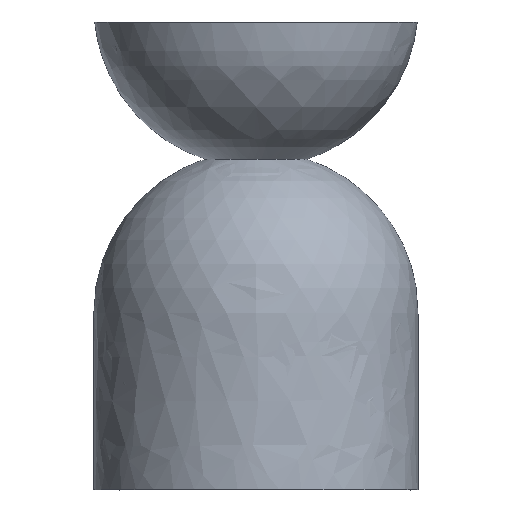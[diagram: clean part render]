
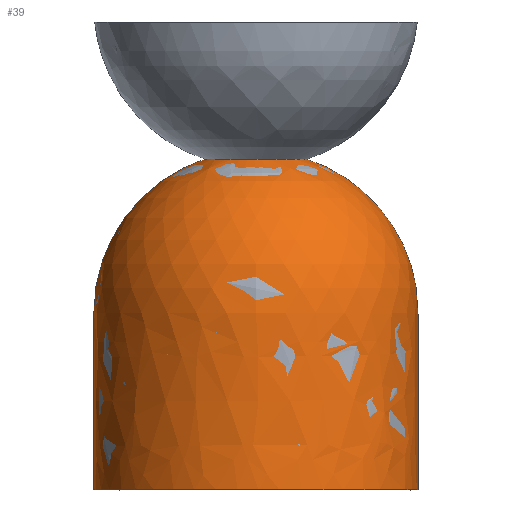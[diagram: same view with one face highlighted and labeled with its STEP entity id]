
A CAD part, front view. The second image highlights one B-rep face of the part: STEP entity #39.
In plain terms, the highlighted free-form (B-spline) face has degree [2, 2] with [5, 5] control points.
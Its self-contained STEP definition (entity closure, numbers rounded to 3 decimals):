
#39=ADVANCED_FACE('',(#65),#352,.T.);
#65=FACE_OUTER_BOUND('',#91,.T.);
#91=EDGE_LOOP('',(#189,#190,#191,#192));
#189=ORIENTED_EDGE('',*,*,#233,.F.);
#190=ORIENTED_EDGE('',*,*,#247,.F.);
#191=ORIENTED_EDGE('',*,*,#231,.F.);
#192=ORIENTED_EDGE('',*,*,#245,.F.);
#231=EDGE_CURVE('',#323,#325,#285,.T.);
#233=EDGE_CURVE('',#326,#324,#287,.T.);
#245=EDGE_CURVE('',#324,#323,#298,.T.);
#247=EDGE_CURVE('',#325,#326,#300,.T.);
#285=(
BOUNDED_CURVE()
B_SPLINE_CURVE(2,(#775,#776,#777,#778,#779),.UNSPECIFIED.,.F.,.F.)
B_SPLINE_CURVE_WITH_KNOTS((3,2,3),(1811.596,1842.989,1867.989),
 .UNSPECIFIED.)
CURVE()
GEOMETRIC_REPRESENTATION_ITEM()
RATIONAL_B_SPLINE_CURVE((1.,0.809,1.,1.,1.))
REPRESENTATION_ITEM('')
);
#287=(
BOUNDED_CURVE()
B_SPLINE_CURVE(2,(#785,#786,#787,#788,#789),.UNSPECIFIED.,.F.,.F.)
B_SPLINE_CURVE_WITH_KNOTS((3,2,3),(-1867.989,-1842.989,
-1811.596),.UNSPECIFIED.)
CURVE()
GEOMETRIC_REPRESENTATION_ITEM()
RATIONAL_B_SPLINE_CURVE((1.,1.,1.,0.809,1.))
REPRESENTATION_ITEM('')
);
#298=(
BOUNDED_CURVE()
B_SPLINE_CURVE(2,(#842,#843,#844,#845,#846),.UNSPECIFIED.,.F.,.F.)
B_SPLINE_CURVE_WITH_KNOTS((3,2,3),(785.398,1178.097,1570.796),
 .UNSPECIFIED.)
CURVE()
GEOMETRIC_REPRESENTATION_ITEM()
RATIONAL_B_SPLINE_CURVE((1.,0.707,1.,0.707,1.))
REPRESENTATION_ITEM('')
);
#300=(
BOUNDED_CURVE()
B_SPLINE_CURVE(2,(#852,#853,#854,#855,#856),.UNSPECIFIED.,.F.,.F.)
B_SPLINE_CURVE_WITH_KNOTS((3,2,3),(-1570.796,-1178.097,
-785.398),.UNSPECIFIED.)
CURVE()
GEOMETRIC_REPRESENTATION_ITEM()
RATIONAL_B_SPLINE_CURVE((1.,0.707,1.,0.707,1.))
REPRESENTATION_ITEM('')
);
#323=VERTEX_POINT('',#657);
#324=VERTEX_POINT('',#658);
#325=VERTEX_POINT('',#659);
#326=VERTEX_POINT('',#660);
#352=(
BOUNDED_SURFACE()
B_SPLINE_SURFACE(2,2,((#609,#610,#611,#612,#613),(#614,#615,#616,#617,#618),
(#619,#620,#621,#622,#623),(#624,#625,#626,#627,#628),(#629,#630,#631,#632,
#633)),.UNSPECIFIED.,.F.,.F.,.F.)
B_SPLINE_SURFACE_WITH_KNOTS((3,2,3),(3,2,3),(1811.596,1842.989,
1867.989),(785.398,1178.097,1570.796),
 .UNSPECIFIED.)
GEOMETRIC_REPRESENTATION_ITEM()
RATIONAL_B_SPLINE_SURFACE(((1.,0.707,1.,0.707,1.),
(0.809,0.572,0.809,0.572,
0.809),(1.,0.707,1.,0.707,1.),(1.,0.707,
1.,0.707,1.),(1.,0.707,1.,0.707,1.)))
REPRESENTATION_ITEM('')
SURFACE()
);
#609=CARTESIAN_POINT('',(-78.332,0.,3418.499));
#610=CARTESIAN_POINT('',(-78.332,-78.332,3418.499));
#611=CARTESIAN_POINT('',(0.,-78.332,3418.499));
#612=CARTESIAN_POINT('',(78.332,-78.332,3418.499));
#613=CARTESIAN_POINT('',(78.332,0.,3418.499));
#614=CARTESIAN_POINT('',(-250.,0.,3362.547));
#615=CARTESIAN_POINT('',(-250.,-250.,3362.547));
#616=CARTESIAN_POINT('',(0.,-250.,3362.547));
#617=CARTESIAN_POINT('',(250.,-250.,3362.547));
#618=CARTESIAN_POINT('',(250.,0.,3362.547));
#619=CARTESIAN_POINT('',(-250.,0.,3181.991));
#620=CARTESIAN_POINT('',(-250.,-250.,3181.991));
#621=CARTESIAN_POINT('',(0.,-250.,3181.991));
#622=CARTESIAN_POINT('',(250.,-250.,3181.991));
#623=CARTESIAN_POINT('',(250.,0.,3181.991));
#624=CARTESIAN_POINT('',(-250.,0.,3045.177));
#625=CARTESIAN_POINT('',(-250.,-250.,3045.177));
#626=CARTESIAN_POINT('',(0.,-250.,3045.177));
#627=CARTESIAN_POINT('',(250.,-250.,3045.177));
#628=CARTESIAN_POINT('',(250.,0.,3045.177));
#629=CARTESIAN_POINT('',(-250.,0.,2908.362));
#630=CARTESIAN_POINT('',(-250.,-250.,2908.362));
#631=CARTESIAN_POINT('',(0.,-250.,2908.362));
#632=CARTESIAN_POINT('',(250.,-250.,2908.362));
#633=CARTESIAN_POINT('',(250.,0.,2908.362));
#657=CARTESIAN_POINT('',(78.332,0.,3418.499));
#658=CARTESIAN_POINT('',(-78.332,0.,3418.499));
#659=CARTESIAN_POINT('',(250.,0.,2908.362));
#660=CARTESIAN_POINT('',(-250.,0.,2908.362));
#775=CARTESIAN_POINT('',(78.332,0.,3418.499));
#776=CARTESIAN_POINT('',(250.,0.,3362.547));
#777=CARTESIAN_POINT('',(250.,0.,3181.991));
#778=CARTESIAN_POINT('',(250.,0.,3045.177));
#779=CARTESIAN_POINT('',(250.,0.,2908.362));
#785=CARTESIAN_POINT('',(-250.,0.,2908.362));
#786=CARTESIAN_POINT('',(-250.,0.,3045.177));
#787=CARTESIAN_POINT('',(-250.,0.,3181.991));
#788=CARTESIAN_POINT('',(-250.,0.,3362.547));
#789=CARTESIAN_POINT('',(-78.332,0.,3418.499));
#842=CARTESIAN_POINT('',(-78.332,0.,3418.499));
#843=CARTESIAN_POINT('',(-78.332,-78.332,3418.499));
#844=CARTESIAN_POINT('',(0.,-78.332,3418.499));
#845=CARTESIAN_POINT('',(78.332,-78.332,3418.499));
#846=CARTESIAN_POINT('',(78.332,0.,3418.499));
#852=CARTESIAN_POINT('',(250.,0.,2908.362));
#853=CARTESIAN_POINT('',(250.,-250.,2908.362));
#854=CARTESIAN_POINT('',(0.,-250.,2908.362));
#855=CARTESIAN_POINT('',(-250.,-250.,2908.362));
#856=CARTESIAN_POINT('',(-250.,0.,2908.362));
